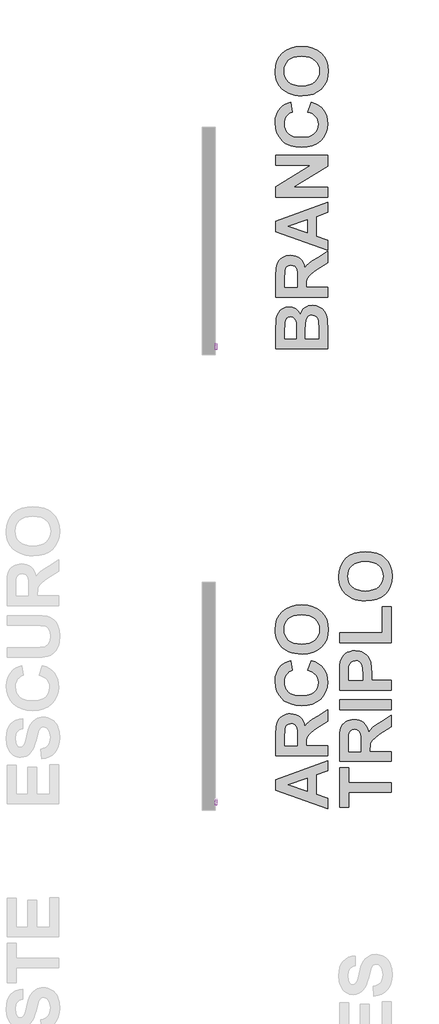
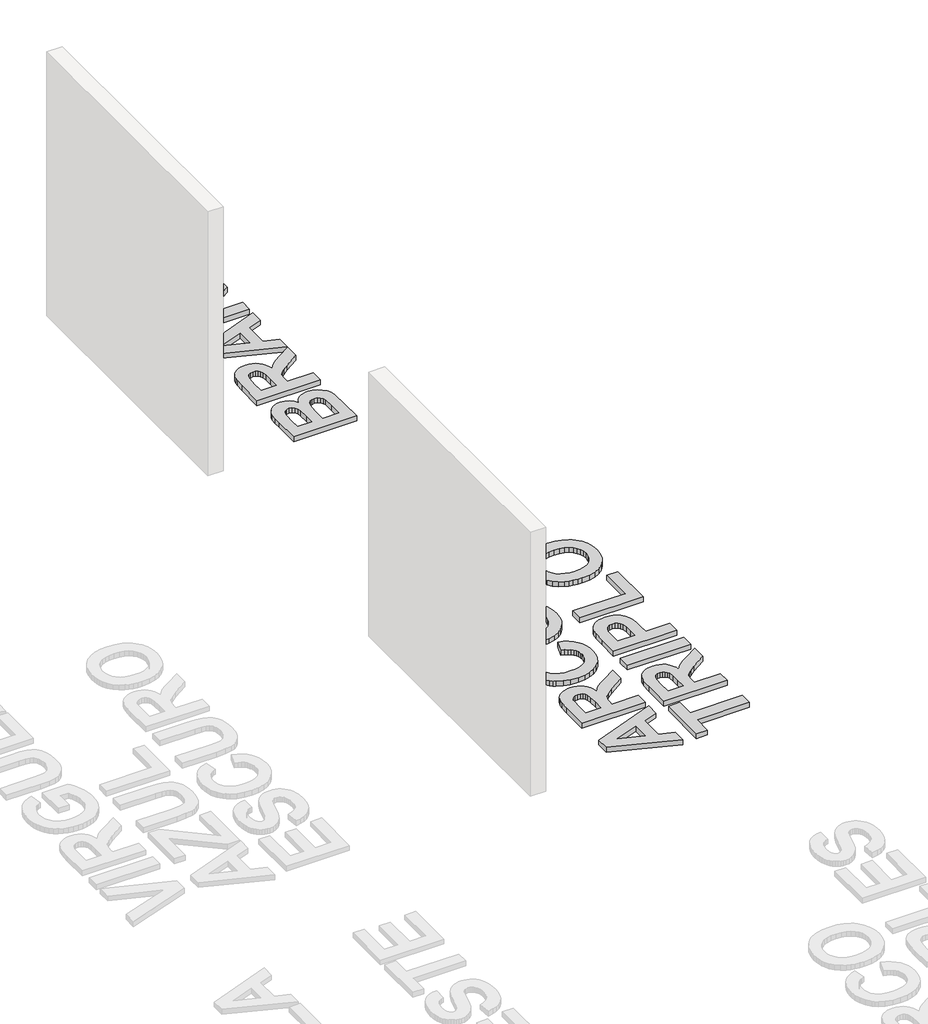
# One storey, part 11 of 12: 5 proxies.
"""IFC4 building model written with IfcOpenShell, lengths in millimetres."""

from ifc_helpers import new_model, si_unit, frame, origin, origin_with_axes, place, context, project, spatial, polyline, outline, extrude, element, save

model = new_model("IFC4")

# Units and contexts
model_context = context("Model", 3, world=origin())
ifc_project = project(units=[si_unit("LENGTHUNIT", "METRE", prefix="MILLI")], contexts=[model_context])

# Site, building, storey
site = spatial("IfcSite", under=ifc_project)
building = spatial("IfcBuilding", under=site)
storey = spatial("IfcBuildingStorey", under=building, Name="PORTOBELLO - SHOWROOM", Elevation=0.0)

# Proxies
placement = place(None, origin())
element("IfcBuildingElementProxy", 1, Name="10mm Arial", ObjectType="10mm Arial", at=placement, inside=storey, context=model_context, shape_type="SweptSolid", body=[
    extrude(outline(polyline([(7035.0884642, 2548.8308244), (7035.0884642, 2649.2871345), (7073.4217681, 2649.2871345), (7092.1960126, 2646.3318158), (7103.2815234, 2637.2451306), (7107.2914371, 2624.3937862), (7103.9191855, 2612.6583505), (7093.7288542, 2603.767869), (7106.101952, 2594.3991409), (7110.4306968, 2578.7764188), (7107.4753781, 2565.2751496), (7100.1545264, 2555.6611668), (7089.2284311, 2550.5598698), (7073.1274625, 2548.8308244), (7035.0884642, 2548.8308244)]), holes=[polyline([(7047.645503, 2608.4767585), (7070.576814, 2608.4767585), (7083.9677186, 2609.5558791), (7092.0243343, 2614.2034549), (7094.7343983, 2622.382698), (7092.2082753, 2630.5742037), (7084.9732627, 2635.4179833), (7068.8355059, 2636.7300958), (7047.645503, 2636.7300958), (7047.645503, 2608.4767585)]), polyline([(7047.645503, 2561.3878632), (7073.3972426, 2561.3878632), (7082.7169198, 2561.8783725), (7090.6018573, 2564.612962), (7095.8257816, 2570.1925056), (7097.873658, 2578.6537915), (7095.4701623, 2588.4149271), (7087.6833268, 2594.2397253), (7072.1709693, 2595.9197198), (7047.645503, 2595.9197198), (7047.645503, 2561.3878632)])]), frame((13302.9163978, 0.0, 0.0), z_axis=(1.0, 0.0, 0.0), x_axis=(0.0, 1.0, 0.0)), (0.0, 0.0, 1.0), 20.0),
    extrude(outline(polyline([(7126.1269953, 2548.8308244), (7126.1269953, 2622.6034272), (7137.1144042, 2622.6034272), (7137.1144042, 2611.6895946), (7144.9135025, 2621.7450358), (7152.7616517, 2624.173057), (7165.3677414, 2620.2980333), (7161.1738867, 2609.0408443), (7152.3447188, 2611.6160182), (7145.2445963, 2609.1389461), (7140.7196477, 2602.2718156), (7138.684034, 2587.6055867), (7138.684034, 2548.8308244), (7126.1269953, 2548.8308244)])), frame((13302.9163978, 0.0, 0.0), z_axis=(1.0, 0.0, 0.0), x_axis=(0.0, 1.0, 0.0)), (0.0, 0.0, 1.0), 20.0),
    extrude(outline(polyline([(7220.304786, 2558.2486035), (7208.127892, 2549.7382666), (7194.6756737, 2547.2611945), (7184.1818398, 2548.7511166), (7176.4409895, 2553.2208829), (7171.6677206, 2560.0083057), (7170.076631, 2568.4511975), (7172.4801267, 2578.3840113), (7178.7954342, 2585.5944984), (7187.5878139, 2589.7147768), (7198.4525955, 2591.6032377), (7220.2312096, 2595.9197198), (7220.304786, 2598.7156229), (7216.8466953, 2607.9862492), (7202.9652813, 2611.6160182), (7190.2610898, 2609.2002598), (7184.2032996, 2600.6286093), (7171.6462608, 2602.1982392), (7177.0786516, 2614.4609723), (7188.0170096, 2621.646934), (7204.5839621, 2624.173057), (7219.802014, 2621.9412396), (7228.3981899, 2616.3371705), (7232.2486881, 2607.8145709), (7232.8618248, 2596.827162), (7232.8618248, 2581.20444), (7233.4994869, 2559.3890376), (7236.0010845, 2548.8308244), (7223.4440457, 2548.8308244), (7220.304786, 2558.2486035)]), holes=[polyline([(7220.304786, 2583.362681), (7200.0467508, 2579.5121828), (7189.2432829, 2577.4765691), (7184.3504524, 2574.1656311), (7182.6336697, 2569.3341142), (7186.3738033, 2562.5405601), (7197.3489495, 2559.8182333), (7210.0531411, 2562.8226029), (7218.2446469, 2570.0944037), (7220.2312096, 2579.8064884), (7220.304786, 2583.362681)])]), frame((13302.9163978, 0.0, 0.0), z_axis=(1.0, 0.0, 0.0), x_axis=(0.0, 1.0, 0.0)), (0.0, 0.0, 1.0), 20.0),
    extrude(outline(polyline([(7250.1277531, 2548.8308244), (7250.1277531, 2622.6034272), (7262.6847919, 2622.6034272), (7262.6847919, 2612.3027313), (7272.2865119, 2621.2054756), (7285.3953737, 2624.173057), (7297.2534367, 2621.781824), (7305.3468406, 2615.5033046), (7309.1114997, 2606.2694666), (7309.7736873, 2594.1293607), (7309.7736873, 2548.8308244), (7297.2166485, 2548.8308244), (7297.2166485, 2592.4371035), (7295.769646, 2603.5471398), (7290.6560862, 2609.420989), (7282.0353848, 2611.6160182), (7268.4114883, 2606.6863995), (7264.116466, 2599.5433574), (7262.6847919, 2587.9734687), (7262.6847919, 2548.8308244), (7250.1277531, 2548.8308244)])), frame((13302.9163978, 0.0, 0.0), z_axis=(1.0, 0.0, 0.0), x_axis=(0.0, 1.0, 0.0)), (0.0, 0.0, 1.0), 20.0),
    extrude(outline(polyline([(7374.1285109, 2575.5145318), (7386.6855497, 2573.9449019), (7383.1845394, 2562.7766177), (7376.605583, 2554.3367916), (7367.5679487, 2549.0300938), (7356.6909044, 2547.2611945), (7343.3337223, 2549.7290696), (7332.8889393, 2557.1326947), (7326.1475017, 2569.1471076), (7323.9003559, 2585.4473456), (7327.7385914, 2606.3062548), (7339.4372388, 2619.7094221), (7356.5192261, 2624.173057), (7367.129556, 2622.6402154), (7375.6123017, 2618.0416904), (7381.697683, 2610.6227368), (7385.1159199, 2600.6286093), (7372.5588811, 2599.0589795), (7366.7340828, 2608.4644958), (7356.617328, 2611.6160182), (7348.5024643, 2610.0647825), (7342.0614637, 2605.4110752), (7337.8584119, 2597.4035105), (7336.4573946, 2585.7907022), (7337.8277551, 2574.021544), (7341.9388364, 2565.9863881), (7348.263341, 2561.360272), (7356.2739714, 2559.8182333), (7368.107509, 2563.6687315), (7374.1285109, 2575.5145318)])), frame((13302.9163978, 0.0, 0.0), z_axis=(1.0, 0.0, 0.0), x_axis=(0.0, 1.0, 0.0)), (0.0, 0.0, 1.0), 20.0),
    extrude(outline(polyline([(7394.5336989, 2585.7171258), (7397.2498943, 2603.5042202), (7405.3984805, 2616.0060767), (7415.4661845, 2622.1313119), (7427.5204512, 2624.173057), (7440.7120864, 2621.6867878), (7451.2488399, 2614.2279804), (7458.1558243, 2602.3852458), (7460.4581525, 2586.7471954), (7456.3869251, 2564.4044955), (7444.5288621, 2551.7616176), (7427.5204512, 2547.2611945), (7414.1694004, 2549.7382666), (7403.6449097, 2557.1694829), (7396.8115016, 2569.2605379), (7394.5336989, 2585.7171258)]), holes=[polyline([(7407.0907377, 2585.7416512), (7408.5438716, 2574.3771633), (7412.9032732, 2566.2806937), (7419.4638355, 2561.4338484), (7427.5204512, 2559.8182333), (7435.5402787, 2561.4430455), (7442.0885782, 2566.3174819), (7446.4479798, 2574.5212504), (7447.9011137, 2586.1340587), (7446.4387828, 2597.1674529), (7442.05179, 2605.1535578), (7435.4942934, 2610.0004031), (7427.5204512, 2611.6160182), (7419.4638355, 2610.0065345), (7412.9032732, 2605.1780833), (7408.5438716, 2597.1000078), (7407.0907377, 2585.7416512)])]), frame((13302.9163978, 0.0, 0.0), z_axis=(1.0, 0.0, 0.0), x_axis=(0.0, 1.0, 0.0)), (0.0, 0.0, 1.0), 20.0),
])
element("IfcBuildingElementProxy", 2, Name="10mm Arial Narrow", ObjectType="10mm Arial Narrow", at=placement, inside=storey, context=model_context, shape_type="SweptSolid", body=[
    extrude(outline(polyline([(1632.2235233, 2398.8308244), (1632.2235233, 2499.5494281), (1663.520408, 2499.5494281), (1679.8161095, 2497.6711074), (1691.2890956, 2488.1906642), (1695.5787741, 2471.1715554), (1693.7924657, 2459.0957299), (1688.4335405, 2449.4693361), (1678.6897516, 2443.1680777), (1663.7488524, 2441.0676582), (1641.970485, 2441.0676582), (1641.970485, 2398.8308244), (1632.2235233, 2398.8308244)]), holes=[polyline([(1641.970485, 2452.4391135), (1664.9418399, 2452.4391135), (1680.8060353, 2456.9699277), (1685.8318124, 2470.6385184), (1683.3569979, 2480.8042949), (1677.3793691, 2486.6042447), (1664.7133955, 2488.1779729), (1641.970485, 2488.1779729), (1641.970485, 2452.4391135)])]), frame((13302.9163978, 0.0, 0.0), z_axis=(1.0, 0.0, 0.0), x_axis=(0.0, 1.0, 0.0)), (0.0, 0.0, 1.0), 20.0),
    extrude(outline(polyline([(1703.7012421, 2435.3819306), (1705.655711, 2451.9727061), (1711.5191176, 2463.9247909), (1720.3776843, 2471.1493455), (1731.3176335, 2473.5575304), (1742.130669, 2471.1493455), (1751.0146185, 2463.9247909), (1756.9541732, 2452.1630765), (1758.9340248, 2436.143412), (1756.9890745, 2418.9815254), (1751.1542234, 2406.8390702), (1742.3051752, 2399.6145156), (1731.3176335, 2397.2063308), (1720.4570053, 2399.6208613), (1711.5825744, 2406.8644529), (1705.6715752, 2418.8228834), (1703.7012421, 2435.3819306)]), holes=[polyline([(1713.4482038, 2435.4073133), (1714.7522406, 2422.8555619), (1718.6643512, 2413.9843038), (1724.505548, 2408.7110453), (1731.5968433, 2406.9532924), (1738.3169165, 2408.7269095), (1744.0089898, 2414.0477606), (1747.8925448, 2422.9348829), (1749.1870632, 2435.4073133), (1747.8830263, 2447.9209906), (1743.9709157, 2456.7795573), (1738.129719, 2462.0528159), (1731.0384236, 2463.8105687), (1724.2707579, 2462.0432974), (1718.5882031, 2456.7414833), (1714.7332036, 2447.873398), (1713.4482038, 2435.4073133)])]), frame((13302.9163978, 0.0, 0.0), z_axis=(1.0, 0.0, 0.0), x_axis=(0.0, 1.0, 0.0)), (0.0, 0.0, 1.0), 20.0),
    extrude(outline(polyline([(1830.4117436, 2406.9532924), (1832.0362372, 2397.2063308), (1824.6752505, 2397.2063308), (1816.4004862, 2399.3257873), (1812.0854251, 2405.1257371), (1810.9178203, 2419.7715623), (1810.9178203, 2462.1860751), (1802.7953522, 2462.1860751), (1802.7953522, 2465.4350624), (1801.1708586, 2460.5615815), (1793.6068103, 2462.1860751), (1787.5276506, 2459.8635569), (1783.6567869, 2453.3782738), (1781.6769353, 2437.9709673), (1781.6769353, 2398.8308244), (1771.9299737, 2398.8308244), (1771.9299737, 2471.9330368), (1781.6769353, 2471.9330368), (1781.6769353, 2462.2368406), (1787.9210826, 2471.3238517), (1794.3175262, 2473.5575304), (1802.7953522, 2471.9330368), (1810.9178203, 2471.9330368), (1810.9178203, 2488.1779729), (1820.6647819, 2496.3004409), (1820.6647819, 2471.9330368), (1830.4117436, 2471.9330368), (1830.4117436, 2462.1860751), (1820.6647819, 2462.1860751), (1820.6647819, 2417.5378836), (1821.5277942, 2409.5423291), (1826.1474479, 2406.9532924), (1830.4117436, 2406.9532924)])), frame((13302.9163978, 0.0, 0.0), z_axis=(1.0, 0.0, 0.0), x_axis=(0.0, 1.0, 0.0)), (0.0, 0.0, 1.0), 20.0),
    extrude(outline(polyline([(1836.909718, 2435.3819306), (1838.8641869, 2451.9727061), (1844.7275935, 2463.9247909), (1853.5861602, 2471.1493455), (1864.5261094, 2473.5575304), (1875.339145, 2471.1493455), (1884.2230944, 2463.9247909), (1890.1626492, 2452.1630765), (1892.1425007, 2436.143412), (1890.1975504, 2418.9815254), (1884.3626993, 2406.8390702), (1875.5136511, 2399.6145156), (1864.5261094, 2397.2063308), (1853.6654812, 2399.6208613), (1844.7910503, 2406.8644529), (1838.8800511, 2418.8228834), (1836.909718, 2435.3819306)]), holes=[polyline([(1846.6566797, 2435.4073133), (1847.9607166, 2422.8555619), (1851.8728271, 2413.9843038), (1857.7140239, 2408.7110453), (1864.8053192, 2406.9532924), (1871.5253924, 2408.7269095), (1877.2174657, 2414.0477606), (1881.1010207, 2422.9348829), (1882.3955391, 2435.4073133), (1881.0915022, 2447.9209906), (1877.1793916, 2456.7795573), (1871.3381949, 2462.0528159), (1864.2468995, 2463.8105687), (1857.4792338, 2462.0432974), (1851.796679, 2456.7414833), (1847.9416795, 2447.873398), (1846.6566797, 2435.4073133)])]), frame((13302.9163978, 0.0, 0.0), z_axis=(1.0, 0.0, 0.0), x_axis=(0.0, 1.0, 0.0)), (0.0, 0.0, 1.0), 20.0),
    extrude(outline(polyline([(1914.8854113, 2398.8308244), (1905.1384496, 2398.8308244), (1905.1384496, 2499.5494281), (1914.8854113, 2499.5494281), (1914.8854113, 2464.140544), (1922.284472, 2471.2223208), (1931.4857053, 2473.5575304), (1944.367432, 2469.3566915), (1953.6448135, 2456.6272611), (1957.1222451, 2435.9403503), (1955.1899861, 2419.4860068), (1949.3932091, 2407.2832677), (1941.0200868, 2399.725565), (1931.3587918, 2397.2063308), (1922.0179535, 2399.8207502), (1914.8854113, 2407.5878602), (1914.8854113, 2398.8308244)]), holes=[polyline([(1914.8854113, 2435.9403503), (1916.9667937, 2418.692797), (1922.855583, 2409.9611439), (1931.3080263, 2406.9532924), (1937.2507539, 2408.7427737), (1942.4891113, 2414.1112174), (1947.3752834, 2435.5342269), (1942.6667902, 2456.9699277), (1937.4220872, 2462.1004085), (1931.1049646, 2463.8105687), (1925.1273358, 2462.0210875), (1919.8350402, 2456.6526438), (1914.8854113, 2435.9403503)])]), frame((13302.9163978, 0.0, 0.0), z_axis=(1.0, 0.0, 0.0), x_axis=(0.0, 1.0, 0.0)), (0.0, 0.0, 1.0), 20.0),
    extrude(outline(polyline([(2009.1060406, 2421.5737349), (2018.8530022, 2419.9492413), (2015.1534719, 2410.0626747), (2009.334485, 2402.9428238), (2001.6308317, 2398.640454), (1992.2773021, 2397.2063308), (1980.6837481, 2399.6208613), (1971.5396259, 2406.8644529), (1965.6000711, 2418.6705872), (1963.6202195, 2434.7727455), (1965.6095896, 2451.4396692), (1971.5776999, 2463.6201984), (1980.5917358, 2471.0731974), (1991.7188824, 2473.5575304), (2002.4018316, 2471.1588641), (2011.1493489, 2463.962865), (2016.9842, 2452.2233604), (2018.9291504, 2436.1941774), (2018.8530022, 2432.9451902), (1973.3671812, 2432.9451902), (1979.3701927, 2413.5020323), (1985.300229, 2408.5904774), (1992.4042157, 2406.9532924), (2002.5826834, 2410.608403), (2009.1060406, 2421.5737349)]), holes=[polyline([(1974.0271317, 2442.6921518), (2009.1060406, 2442.6921518), (2004.8417449, 2456.9572363), (1999.0164123, 2462.0972356), (1991.7950306, 2463.8105687), (1979.5859458, 2458.0994584), (1974.0271317, 2442.6921518)])]), frame((13302.9163978, 0.0, 0.0), z_axis=(1.0, 0.0, 0.0), x_axis=(0.0, 1.0, 0.0)), (0.0, 0.0, 1.0), 20.0),
    extrude(outline(polyline([(13322.9163978, 2041.5959128), (13322.9163978, 2031.8489511), (13302.9163978, 2031.8489511), (13302.9163978, 2041.5959128), (13322.9163978, 2041.5959128)])), frame((0.0, 0.0, 2398.8308244), z_axis=(0.0, 0.0, 1.0), x_axis=(1.0, 0.0, 0.0)), (0.0, 0.0, 1.0), 100.7186038),
    extrude(outline(polyline([(13322.9163978, 2067.5878105), (13322.9163978, 2057.8408488), (13302.9163978, 2057.8408488), (13302.9163978, 2067.5878105), (13322.9163978, 2067.5878105)])), frame((0.0, 0.0, 2398.8308244), z_axis=(0.0, 0.0, 1.0), x_axis=(1.0, 0.0, 0.0)), (0.0, 0.0, 1.0), 100.7186038),
    extrude(outline(polyline([(2078.9592658, 2435.3819306), (2080.9137346, 2451.9727061), (2086.7771413, 2463.9247909), (2095.635708, 2471.1493455), (2106.5756571, 2473.5575304), (2117.3886927, 2471.1493455), (2126.2726421, 2463.9247909), (2132.2121969, 2452.1630765), (2134.1920485, 2436.143412), (2132.2470981, 2418.9815254), (2126.412247, 2406.8390702), (2117.5631988, 2399.6145156), (2106.5756571, 2397.2063308), (2095.7150289, 2399.6208613), (2086.840598, 2406.8644529), (2080.9295988, 2418.8228834), (2078.9592658, 2435.3819306)]), holes=[polyline([(2088.7062274, 2435.4073133), (2090.0102643, 2422.8555619), (2093.9223749, 2413.9843038), (2099.7635716, 2408.7110453), (2106.854867, 2406.9532924), (2113.5749401, 2408.7269095), (2119.2670134, 2414.0477606), (2123.1505685, 2422.9348829), (2124.4450868, 2435.4073133), (2123.14105, 2447.9209906), (2119.2289394, 2456.7795573), (2113.3877426, 2462.0528159), (2106.2964473, 2463.8105687), (2099.5287815, 2462.0432974), (2093.8462267, 2456.7414833), (2089.9912272, 2447.873398), (2088.7062274, 2435.4073133)])]), frame((13302.9163978, 0.0, 0.0), z_axis=(1.0, 0.0, 0.0), x_axis=(0.0, 1.0, 0.0)), (0.0, 0.0, 1.0), 20.0),
])
element("IfcBuildingElementProxy", 3, Name="10mm Arial Narrow", ObjectType="10mm Arial Narrow", at=placement, inside=storey, context=model_context, shape_type="SweptSolid", body=[
    extrude(outline(polyline([(7032.2235233, 2398.8308244), (7032.2235233, 2499.5494281), (7063.520408, 2499.5494281), (7079.8161095, 2497.6711074), (7091.2890956, 2488.1906642), (7095.5787741, 2471.1715554), (7093.7924657, 2459.0957299), (7088.4335405, 2449.4693361), (7078.6897516, 2443.1680777), (7063.7488524, 2441.0676582), (7041.970485, 2441.0676582), (7041.970485, 2398.8308244), (7032.2235233, 2398.8308244)]), holes=[polyline([(7041.970485, 2452.4391135), (7064.9418399, 2452.4391135), (7080.8060353, 2456.9699277), (7085.8318124, 2470.6385184), (7083.3569979, 2480.8042949), (7077.3793691, 2486.6042447), (7064.7133955, 2488.1779729), (7041.970485, 2488.1779729), (7041.970485, 2452.4391135)])]), frame((13302.9163978, 0.0, 0.0), z_axis=(1.0, 0.0, 0.0), x_axis=(0.0, 1.0, 0.0)), (0.0, 0.0, 1.0), 20.0),
    extrude(outline(polyline([(7103.7012421, 2435.3819306), (7105.655711, 2451.9727061), (7111.5191176, 2463.9247909), (7120.3776843, 2471.1493455), (7131.3176335, 2473.5575304), (7142.130669, 2471.1493455), (7151.0146185, 2463.9247909), (7156.9541732, 2452.1630765), (7158.9340248, 2436.143412), (7156.9890745, 2418.9815254), (7151.1542234, 2406.8390702), (7142.3051752, 2399.6145156), (7131.3176335, 2397.2063308), (7120.4570053, 2399.6208613), (7111.5825744, 2406.8644529), (7105.6715752, 2418.8228834), (7103.7012421, 2435.3819306)]), holes=[polyline([(7113.4482038, 2435.4073133), (7114.7522406, 2422.8555619), (7118.6643512, 2413.9843038), (7124.505548, 2408.7110453), (7131.5968433, 2406.9532924), (7138.3169165, 2408.7269095), (7144.0089898, 2414.0477606), (7147.8925448, 2422.9348829), (7149.1870632, 2435.4073133), (7147.8830263, 2447.9209906), (7143.9709157, 2456.7795573), (7138.129719, 2462.0528159), (7131.0384236, 2463.8105687), (7124.2707579, 2462.0432974), (7118.5882031, 2456.7414833), (7114.7332036, 2447.873398), (7113.4482038, 2435.4073133)])]), frame((13302.9163978, 0.0, 0.0), z_axis=(1.0, 0.0, 0.0), x_axis=(0.0, 1.0, 0.0)), (0.0, 0.0, 1.0), 20.0),
    extrude(outline(polyline([(7230.4117436, 2406.9532924), (7232.0362372, 2397.2063308), (7224.6752505, 2397.2063308), (7216.4004862, 2399.3257873), (7212.0854251, 2405.1257371), (7210.9178203, 2419.7715623), (7210.9178203, 2462.1860751), (7202.7953522, 2462.1860751), (7202.7953522, 2465.4350624), (7201.1708586, 2460.5615815), (7193.6068103, 2462.1860751), (7187.5276506, 2459.8635569), (7183.6567869, 2453.3782738), (7181.6769353, 2437.9709673), (7181.6769353, 2398.8308244), (7171.9299737, 2398.8308244), (7171.9299737, 2471.9330368), (7181.6769353, 2471.9330368), (7181.6769353, 2462.2368406), (7187.9210826, 2471.3238517), (7194.3175262, 2473.5575304), (7202.7953522, 2471.9330368), (7210.9178203, 2471.9330368), (7210.9178203, 2488.1779729), (7220.6647819, 2496.3004409), (7220.6647819, 2471.9330368), (7230.4117436, 2471.9330368), (7230.4117436, 2462.1860751), (7220.6647819, 2462.1860751), (7220.6647819, 2417.5378836), (7221.5277942, 2409.5423291), (7226.1474479, 2406.9532924), (7230.4117436, 2406.9532924)])), frame((13302.9163978, 0.0, 0.0), z_axis=(1.0, 0.0, 0.0), x_axis=(0.0, 1.0, 0.0)), (0.0, 0.0, 1.0), 20.0),
    extrude(outline(polyline([(7236.909718, 2435.3819306), (7238.8641869, 2451.9727061), (7244.7275935, 2463.9247909), (7253.5861602, 2471.1493455), (7264.5261094, 2473.5575304), (7275.339145, 2471.1493455), (7284.2230944, 2463.9247909), (7290.1626492, 2452.1630765), (7292.1425007, 2436.143412), (7290.1975504, 2418.9815254), (7284.3626993, 2406.8390702), (7275.5136511, 2399.6145156), (7264.5261094, 2397.2063308), (7253.6654812, 2399.6208613), (7244.7910503, 2406.8644529), (7238.8800511, 2418.8228834), (7236.909718, 2435.3819306)]), holes=[polyline([(7246.6566797, 2435.4073133), (7247.9607166, 2422.8555619), (7251.8728271, 2413.9843038), (7257.7140239, 2408.7110453), (7264.8053192, 2406.9532924), (7271.5253924, 2408.7269095), (7277.2174657, 2414.0477606), (7281.1010207, 2422.9348829), (7282.3955391, 2435.4073133), (7281.0915022, 2447.9209906), (7277.1793916, 2456.7795573), (7271.3381949, 2462.0528159), (7264.2468995, 2463.8105687), (7257.4792338, 2462.0432974), (7251.796679, 2456.7414833), (7247.9416795, 2447.873398), (7246.6566797, 2435.4073133)])]), frame((13302.9163978, 0.0, 0.0), z_axis=(1.0, 0.0, 0.0), x_axis=(0.0, 1.0, 0.0)), (0.0, 0.0, 1.0), 20.0),
    extrude(outline(polyline([(7314.8854113, 2398.8308244), (7305.1384496, 2398.8308244), (7305.1384496, 2499.5494281), (7314.8854113, 2499.5494281), (7314.8854113, 2464.140544), (7322.284472, 2471.2223208), (7331.4857053, 2473.5575304), (7344.367432, 2469.3566915), (7353.6448135, 2456.6272611), (7357.1222451, 2435.9403503), (7355.1899861, 2419.4860068), (7349.3932091, 2407.2832677), (7341.0200868, 2399.725565), (7331.3587918, 2397.2063308), (7322.0179535, 2399.8207502), (7314.8854113, 2407.5878602), (7314.8854113, 2398.8308244)]), holes=[polyline([(7314.8854113, 2435.9403503), (7316.9667937, 2418.692797), (7322.855583, 2409.9611439), (7331.3080263, 2406.9532924), (7337.2507539, 2408.7427737), (7342.4891113, 2414.1112174), (7347.3752834, 2435.5342269), (7342.6667902, 2456.9699277), (7337.4220872, 2462.1004085), (7331.1049646, 2463.8105687), (7325.1273358, 2462.0210875), (7319.8350402, 2456.6526438), (7314.8854113, 2435.9403503)])]), frame((13302.9163978, 0.0, 0.0), z_axis=(1.0, 0.0, 0.0), x_axis=(0.0, 1.0, 0.0)), (0.0, 0.0, 1.0), 20.0),
    extrude(outline(polyline([(7409.1060406, 2421.5737349), (7418.8530022, 2419.9492413), (7415.1534719, 2410.0626747), (7409.334485, 2402.9428238), (7401.6308317, 2398.640454), (7392.2773021, 2397.2063308), (7380.6837481, 2399.6208613), (7371.5396259, 2406.8644529), (7365.6000711, 2418.6705872), (7363.6202195, 2434.7727455), (7365.6095896, 2451.4396692), (7371.5776999, 2463.6201984), (7380.5917358, 2471.0731974), (7391.7188824, 2473.5575304), (7402.4018316, 2471.1588641), (7411.1493489, 2463.962865), (7416.9842, 2452.2233604), (7418.9291504, 2436.1941774), (7418.8530022, 2432.9451902), (7373.3671812, 2432.9451902), (7379.3701927, 2413.5020323), (7385.300229, 2408.5904774), (7392.4042157, 2406.9532924), (7402.5826834, 2410.608403), (7409.1060406, 2421.5737349)]), holes=[polyline([(7374.0271317, 2442.6921518), (7409.1060406, 2442.6921518), (7404.8417449, 2456.9572363), (7399.0164123, 2462.0972356), (7391.7950306, 2463.8105687), (7379.5859458, 2458.0994584), (7374.0271317, 2442.6921518)])]), frame((13302.9163978, 0.0, 0.0), z_axis=(1.0, 0.0, 0.0), x_axis=(0.0, 1.0, 0.0)), (0.0, 0.0, 1.0), 20.0),
    extrude(outline(polyline([(13322.9163978, 7441.5959128), (13322.9163978, 7431.8489511), (13302.9163978, 7431.8489511), (13302.9163978, 7441.5959128), (13322.9163978, 7441.5959128)])), frame((0.0, 0.0, 2398.8308244), z_axis=(0.0, 0.0, 1.0), x_axis=(1.0, 0.0, 0.0)), (0.0, 0.0, 1.0), 100.7186038),
    extrude(outline(polyline([(13322.9163978, 7467.5878105), (13322.9163978, 7457.8408488), (13302.9163978, 7457.8408488), (13302.9163978, 7467.5878105), (13322.9163978, 7467.5878105)])), frame((0.0, 0.0, 2398.8308244), z_axis=(0.0, 0.0, 1.0), x_axis=(1.0, 0.0, 0.0)), (0.0, 0.0, 1.0), 100.7186038),
    extrude(outline(polyline([(7478.9592658, 2435.3819306), (7480.9137346, 2451.9727061), (7486.7771413, 2463.9247909), (7495.635708, 2471.1493455), (7506.5756571, 2473.5575304), (7517.3886927, 2471.1493455), (7526.2726421, 2463.9247909), (7532.2121969, 2452.1630765), (7534.1920485, 2436.143412), (7532.2470981, 2418.9815254), (7526.412247, 2406.8390702), (7517.5631988, 2399.6145156), (7506.5756571, 2397.2063308), (7495.7150289, 2399.6208613), (7486.840598, 2406.8644529), (7480.9295988, 2418.8228834), (7478.9592658, 2435.3819306)]), holes=[polyline([(7488.7062274, 2435.4073133), (7490.0102643, 2422.8555619), (7493.9223749, 2413.9843038), (7499.7635716, 2408.7110453), (7506.854867, 2406.9532924), (7513.5749401, 2408.7269095), (7519.2670134, 2414.0477606), (7523.1505685, 2422.9348829), (7524.4450868, 2435.4073133), (7523.14105, 2447.9209906), (7519.2289394, 2456.7795573), (7513.3877426, 2462.0528159), (7506.2964473, 2463.8105687), (7499.5287815, 2462.0432974), (7493.8462267, 2456.7414833), (7489.9912272, 2447.873398), (7488.7062274, 2435.4073133)])]), frame((13302.9163978, 0.0, 0.0), z_axis=(1.0, 0.0, 0.0), x_axis=(0.0, 1.0, 0.0)), (0.0, 0.0, 1.0), 20.0),
])
element("IfcBuildingElementProxy", 4, Name="600mm Arial", ObjectType="600mm Arial", at=placement, inside=storey, context=model_context, shape_type="SweptSolid", body=[
    extrude(outline(polyline([(14636.2154342, 2161.6357463), (14636.2154342, 2039.1135237), (14500.1808475, 1991.13704), (14500.1808475, 1759.9086075), (14636.2154342, 1712.5394211), (14636.2154342, 1588.347131), (14024.0597942, 1811.8325234), (14024.0597942, 1936.0248135), (14636.2154342, 2161.6357463)]), holes=[polyline([(14393.2965295, 1953.7882584), (14169.8111371, 1874.9914387), (14393.2965295, 1797.2573891), (14393.2965295, 1953.7882584)])]), origin_with_axes(), (0.0, 0.0, 1.0), 50.0),
    extrude(outline(polyline([(14636.2154342, 2219.9362834), (14024.0597942, 2219.9362834), (14024.0597942, 2477.4303224), (14028.1970068, 2561.3132567), (14033.3685226, 2593.2912532), (14040.6086446, 2618.6269358), (14050.4962032, 2639.5407353), (14063.6100284, 2658.2530822), (14079.9501204, 2674.7639765), (14099.516479, 2689.0734182), (14121.4645816, 2700.6310442), (14144.9499054, 2708.8864914), (14169.9724504, 2713.8397597), (14196.5322166, 2715.4908491), (14229.6394064, 2713.1043606), (14259.7290879, 2705.9448953), (14286.8012612, 2694.012453), (14310.8559262, 2677.3070338), (14331.3142527, 2655.8476157), (14347.5974105, 2629.6531767), (14359.7053997, 2598.723717), (14367.6382201, 2563.0592364), (14392.0060228, 2596.8781026), (14418.6511901, 2624.2444355), (14457.2525223, 2652.5596703), (14517.4888195, 2689.2252425), (14636.2154342, 2764.07463), (14636.2154342, 2627.8882191), (14496.3852397, 2539.2228188), (14442.6963661, 2496.3893838), (14413.4132513, 2469.6113702), (14399.0089193, 2450.291726), (14389.9563945, 2429.8333995), (14385.1739286, 2402.6758251), (14383.5797733, 2363.2584372), (14383.5797733, 2336.5373577), (14636.2154342, 2336.5373577), (14636.2154342, 2219.9362834)]), holes=[polyline([(14276.6954552, 2336.5373577), (14276.6954552, 2432.6421494), (14274.9304975, 2508.497373), (14269.6356245, 2549.3191358), (14260.0327366, 2570.081111), (14245.343734, 2585.7569715), (14225.9671558, 2595.606574), (14202.3015406, 2598.8897748), (14176.0928681, 2594.5627818), (14155.4637393, 2581.5818028), (14140.907583, 2560.7059595), (14132.9178284, 2532.6943733), (14130.9441123, 2437.9560004), (14130.9441123, 2336.5373577), (14276.6954552, 2336.5373577)])]), origin_with_axes(), (0.0, 0.0, 1.0), 50.0),
    extrude(outline(polyline([(14403.0132856, 3230.4789272), (14441.8803104, 3347.0800014), (14487.9827127, 3330.977135), (14527.7559388, 3310.300561), (14561.1999888, 3285.0502796), (14588.3148627, 3255.2262906), (14609.2713627, 3220.9519514), (14624.2402913, 3182.3506192), (14633.2216485, 3139.422294), (14636.2154342, 3092.1669758), (14631.1008526, 3033.7810375), (14615.7571077, 2980.8417965), (14590.1841996, 2933.3492528), (14554.3821282, 2891.3034064), (14509.7078233, 2856.8962209), (14457.5182149, 2832.3196598), (14397.8133028, 2817.5737232), (14330.5930872, 2812.658411), (14259.7101099, 2817.6164238), (14197.215426, 2832.4904622), (14143.1090356, 2857.2805262), (14119.2014504, 2873.3940678), (14097.3909386, 2891.9866158), (14061.0574821, 2934.7773502), (14035.1050132, 2983.8213486), (14019.5335318, 3039.118611), (14014.343038, 3100.6691374), (14018.6225859, 3154.4908573), (14031.4612296, 3202.9987261), (14052.8589691, 3246.1927438), (14082.8158043, 3284.0729105), (14105.2193799, 3303.7816045), (14132.0448386, 3320.8523509), (14163.2921805, 3335.2851499), (14198.9614057, 3347.0800014), (14218.394918, 3230.4789272), (14197.0398792, 3223.1296814), (14178.0665842, 3212.6205921), (14161.4750333, 3198.9516592), (14147.2652262, 3182.1228827), (14135.8736581, 3162.7225819), (14127.7368237, 3141.3390759), (14122.854723, 3117.9723649), (14121.2273561, 3092.6224487), (14124.1831858, 3057.9732932), (14133.0506747, 3026.7496738), (14147.8298229, 2998.9515906), (14168.5206304, 2974.5790434), (14195.8252846, 2954.7517367), (14230.4459731, 2940.5893748), (14272.3826957, 2932.0919577), (14321.6354526, 2929.2594853), (14373.7681269, 2932.0065565), (14417.8161564, 2940.2477701), (14453.7795411, 2953.9831261), (14481.6582811, 2973.2126246), (14502.5151464, 2996.8450282), (14517.4129074, 3023.7890997), (14526.3515639, 3054.0448391), (14529.3311161, 3087.6122463), (14527.4285677, 3112.6015797), (14521.7209223, 3135.7974884), (14512.20818, 3157.1999724), (14498.8903409, 3176.8090316), (14481.4827342, 3194.1976603), (14459.7006894, 3208.9388524), (14433.5442066, 3221.032608), (14403.0132856, 3230.4789272)])), origin_with_axes(), (0.0, 0.0, 1.0), 50.0),
    extrude(outline(polyline([(14333.9332221, 3424.814051), (14289.126071, 3426.5315635), (14248.0765717, 3431.6841012), (14210.7847242, 3440.2716641), (14177.2505285, 3452.2942521), (14133.0127186, 3476.5292084), (14093.5194186, 3508.2415123), (14061.1998174, 3545.3815355), (14038.4831042, 3585.8996497), (14027.9218253, 3615.0688963), (14020.3780546, 3646.4016394), (14015.8517922, 3679.897879), (14014.343038, 3715.5576151), (14019.5762324, 3778.6595962), (14035.2758155, 3835.1192635), (14061.4417874, 3884.936617), (14098.074148, 3928.1116567), (14120.0281813, 3946.7931643), (14144.024726, 3962.9838042), (14198.14535, 3987.892481), (14260.4360199, 4002.837687), (14330.8967358, 4007.8194224), (14400.8782562, 4002.8756431), (14462.7941099, 3988.0443053), (14516.6442968, 3963.3254089), (14540.5447652, 3947.2581263), (14562.4288169, 3928.718954), (14598.9615428, 3885.8285849), (14625.056347, 3836.2579459), (14640.7132296, 3780.007037), (14645.9321904, 3717.0758582), (14640.7369521, 3653.4804481), (14625.1512372, 3596.7550882), (14599.1750457, 3546.8997786), (14562.8083777, 3503.9145193), (14517.3322507, 3469.3080644), (14464.0276824, 3444.5891681), (14402.8946729, 3429.7578302), (14333.9332221, 3424.814051)]), holes=[polyline([(14329.6821413, 3541.4151252), (14378.1046089, 3544.5132902), (14420.2833015, 3553.807785), (14456.2182192, 3569.2986097), (14485.9093619, 3590.9857642), (14509.1574602, 3617.4458957), (14525.7632447, 3647.2556512), (14535.7267154, 3680.4150306), (14539.0478723, 3716.9240339), (14535.750438, 3753.3950812), (14525.8581349, 3786.4405924), (14509.3709631, 3816.0605674), (14486.2889227, 3842.2550064), (14456.6120135, 3863.6764684), (14420.3402356, 3878.9775127), (14377.4735891, 3888.1581392), (14328.0120738, 3891.2183481), (14279.2385125, 3888.2387959), (14237.0693088, 3879.3001393), (14201.5044629, 3864.4023784), (14172.5439748, 3843.545513), (14150.0929541, 3817.7543574), (14134.0565108, 3788.0537257), (14124.4346448, 3754.4436179), (14121.2273561, 3716.9240339), (14124.4726009, 3679.3664939), (14134.2083351, 3645.6425178), (14150.4345588, 3615.7521057), (14173.151272, 3589.6952576), (14202.4059198, 3568.5726997), (14238.2459473, 3553.4851583), (14280.6713544, 3544.4326335), (14329.6821413, 3541.4151252)])]), origin_with_axes(), (0.0, 0.0, 1.0), 50.0),
    extrude(outline(polyline([(15391.6835332, 1782.6822548), (14886.4122114, 1782.6822548), (14886.4122114, 1607.7806434), (14779.5278933, 1607.7806434), (14779.5278933, 2074.1849405), (14886.4122114, 2074.1849405), (14886.4122114, 1899.2833291), (15391.6835332, 1899.2833291), (15391.6835332, 1782.6822548)])), origin_with_axes(), (0.0, 0.0, 1.0), 50.0),
    extrude(outline(polyline([(15391.6835332, 2151.9189901), (14779.5278933, 2151.9189901), (14779.5278933, 2409.4130291), (14783.6651059, 2493.2959634), (14788.8366216, 2525.2739598), (14796.0767437, 2550.6096425), (14805.9643022, 2571.5234419), (14819.0781275, 2590.2357888), (14835.4182194, 2606.7466831), (14854.9845781, 2621.0561249), (14876.9326807, 2632.6137509), (14900.4180045, 2640.869198), (14925.4405495, 2645.8224663), (14952.0003156, 2647.4735558), (14985.1075054, 2645.0870673), (15015.197187, 2637.9276019), (15042.2693602, 2625.9951596), (15066.3240252, 2609.2897404), (15086.7823517, 2587.8303223), (15103.0655095, 2561.6358834), (15115.1734987, 2530.7064236), (15123.1063192, 2495.041943), (15147.4741218, 2528.8608093), (15174.1192892, 2556.2271422), (15212.7206214, 2584.542377), (15272.9569186, 2621.2079492), (15391.6835332, 2696.0573367), (15391.6835332, 2559.8709257), (15251.8533387, 2471.2055255), (15198.1644651, 2428.3720905), (15168.8813503, 2401.5940769), (15154.4770184, 2382.2744327), (15145.4244936, 2361.8161062), (15140.6420276, 2334.6585318), (15139.0478723, 2295.2411439), (15139.0478723, 2268.5200643), (15391.6835332, 2268.5200643), (15391.6835332, 2151.9189901)]), holes=[polyline([(15032.1635542, 2268.5200643), (15032.1635542, 2364.624856), (15030.3985965, 2440.4800797), (15025.1037235, 2481.3018425), (15015.5008356, 2502.0638176), (15000.8118331, 2517.7396782), (14981.4352548, 2527.5892807), (14957.7696396, 2530.8724815), (14931.5609672, 2526.5454885), (14910.9318383, 2513.5645095), (14896.3756821, 2492.6886661), (14888.3859275, 2464.6770799), (14886.4122114, 2369.9387071), (14886.4122114, 2268.5200643), (15032.1635542, 2268.5200643)])]), origin_with_axes(), (0.0, 0.0, 1.0), 50.0),
    extrude(outline(polyline([(15391.6835332, 2764.07463), (14779.5278933, 2764.07463), (14779.5278933, 2880.6757043), (15391.6835332, 2880.6757043), (15391.6835332, 2764.07463)])), origin_with_axes(), (0.0, 0.0, 1.0), 50.0),
    extrude(outline(polyline([(15391.6835332, 2997.2767786), (14779.5278933, 2997.2767786), (14779.5278933, 3194.4965644), (14781.805258, 3287.1473529), (14788.6373522, 3340.7033802), (14797.4858631, 3365.8255599), (14810.3672074, 3388.8127102), (14827.281385, 3409.664831), (14848.228396, 3428.3819224), (14872.8571467, 3443.825302), (14900.8165433, 3454.8562874), (14932.1065858, 3461.4748786), (14966.7272742, 3463.6810757), (15018.2906074, 3458.500071), (15040.7273945, 3452.023815), (15060.934262, 3442.9570567), (15095.0188208, 3419.4242878), (15120.9048666, 3390.2740192), (15139.0288943, 3358.0682863), (15149.8273987, 3325.3691243), (15156.3178882, 3270.5225904), (15158.4813847, 3195.5593346), (15158.4813847, 3113.8778529), (15391.6835332, 3113.8778529), (15391.6835332, 2997.2767786)]), holes=[polyline([(14886.4122114, 3113.8778529), (15051.5970666, 3113.8778529), (15051.5970666, 3186.2980514), (15049.3197019, 3251.5255729), (15042.4876077, 3290.8290926), (15030.7781573, 3314.3239054), (15013.8687242, 3332.1253064), (14992.7841224, 3343.3413277), (14968.549166, 3347.0800014), (14939.5886779, 3341.8230845), (14916.1697772, 3326.0523338), (14899.3931903, 3302.2728503), (14890.3596436, 3272.9897355), (14886.4122114, 3177.7958897), (14886.4122114, 3113.8778529)])]), origin_with_axes(), (0.0, 0.0, 1.0), 50.0),
    extrude(outline(polyline([(15391.6835332, 3560.8486376), (14779.5278933, 3560.8486376), (14779.5278933, 3677.4497119), (15284.7992152, 3677.4497119), (15284.7992152, 3988.38591), (15391.6835332, 3988.38591), (15391.6835332, 3560.8486376)])), origin_with_axes(), (0.0, 0.0, 1.0), 50.0),
    extrude(outline(polyline([(15089.4013211, 4056.4032033), (15044.59417, 4058.1207159), (15003.5446708, 4063.2732536), (14966.2528233, 4071.8608164), (14932.7186276, 4083.8834044), (14888.4808177, 4108.1183608), (14848.9875176, 4139.8306647), (14816.6679164, 4176.9706878), (14793.9512032, 4217.488802), (14783.3899243, 4246.6580486), (14775.8461536, 4277.9907917), (14771.3198912, 4311.4870313), (14769.8111371, 4347.1467674), (14775.0443315, 4410.2487486), (14790.7439146, 4466.7084159), (14816.9098864, 4516.5257694), (14853.5422471, 4559.7008091), (14875.4962803, 4578.3823167), (14899.492825, 4594.5729566), (14953.613449, 4619.4816333), (15015.9041189, 4634.4268394), (15086.3648348, 4639.4085747), (15156.3463553, 4634.4647955), (15218.2622089, 4619.6334576), (15272.1123958, 4594.9145613), (15296.0128642, 4578.8472786), (15317.8969159, 4560.3081064), (15354.4296418, 4517.4177372), (15380.5244461, 4467.8470982), (15396.1813286, 4411.5961894), (15401.4002894, 4348.6650106), (15396.2050511, 4285.0696005), (15380.6193363, 4228.3442406), (15354.6431448, 4178.488931), (15318.2764767, 4135.5036717), (15272.8003497, 4100.8972168), (15219.4957815, 4076.1783204), (15158.3627719, 4061.3469826), (15089.4013211, 4056.4032033)]), holes=[polyline([(15085.1502403, 4173.0042776), (15133.5727079, 4176.1024425), (15175.7514006, 4185.3969374), (15211.6863182, 4200.887762), (15241.3774609, 4222.5749166), (15264.6255592, 4249.0350481), (15281.2313437, 4278.8448035), (15291.1948144, 4312.0041829), (15294.5159713, 4348.5131863), (15291.218537, 4384.9842336), (15281.3262339, 4418.0297447), (15264.8390622, 4447.6497198), (15241.7570217, 4473.8441587), (15212.0801126, 4495.2656207), (15175.8083347, 4510.566665), (15132.9416881, 4519.7472916), (15083.4801728, 4522.8075004), (15034.7066115, 4519.8279483), (14992.5374079, 4510.8892917), (14956.972562, 4495.9915307), (14928.0120738, 4475.1346654), (14905.5610532, 4449.3435098), (14889.5246098, 4419.6428781), (14879.9027438, 4386.0327702), (14876.6954552, 4348.5131863), (14879.9406999, 4310.9556462), (14889.6764341, 4277.2316702), (14905.9026579, 4247.3412581), (14928.6193711, 4221.2844099), (14957.8740189, 4200.161852), (14993.7140463, 4185.0743107), (15036.1394535, 4176.0217859), (15085.1502403, 4173.0042776)])]), origin_with_axes(), (0.0, 0.0, 1.0), 50.0),
])
element("IfcBuildingElementProxy", 5, Name="600mm Arial", ObjectType="600mm Arial", at=placement, inside=storey, context=model_context, shape_type="SweptSolid", body=[
    extrude(outline(polyline([(14024.0597942, 7046.6476682), (14024.0597942, 7297.9169103), (14025.5780374, 7362.9926075), (14030.1327669, 7409.1282214), (14039.5268964, 7443.8580335), (14055.5633397, 7474.7163257), (14078.1092505, 7501.2286467), (14107.0317826, 7522.9205458), (14141.0973634, 7537.3818119), (14179.0724203, 7542.2022339), (14220.4445463, 7536.4518879), (14258.324713, 7519.2008501), (14289.9421267, 7492.0812317), (14312.5259936, 7456.7251443), (14322.0719475, 7480.5425838), (14334.4646072, 7501.4374052), (14349.7039729, 7519.4096085), (14367.7900445, 7534.4591938), (14388.1629698, 7546.3489355), (14410.2628967, 7554.8416081), (14434.0898252, 7559.9372117), (14459.6437553, 7561.6357463), (14500.6552985, 7556.7583901), (14540.4902033, 7542.1263217), (14575.7893567, 7519.0490258), (14603.1936456, 7488.835987), (14622.152707, 7451.1266226), (14632.1161777, 7405.56035), (14636.2154342, 7255.8615749), (14636.2154342, 7046.6476682), (14024.0597942, 7046.6476682)]), holes=[polyline([(14130.9441123, 7163.2487425), (14266.978699, 7163.2487425), (14266.978699, 7252.2177913), (14265.0049829, 7350.9035964), (14257.9071961, 7381.9706469), (14243.901403, 7405.6362621), (14223.670813, 7420.6099352), (14197.8986354, 7425.6011596), (14173.2461622, 7421.2931446), (14153.6418475, 7408.3690998), (14139.920725, 7386.9808493), (14132.9178284, 7357.2802176), (14130.9441123, 7241.2864406), (14130.9441123, 7163.2487425)]), polyline([(14373.8630171, 7163.2487425), (14529.3311161, 7163.2487425), (14529.3311161, 7286.5300866), (14525.6873325, 7377.9283245), (14517.5457536, 7404.9150966), (14502.5341244, 7426.3602812), (14480.9560936, 7440.3660743), (14453.1153098, 7445.034672), (14428.9752436, 7441.4288445), (14408.7826096, 7430.611362), (14393.0308369, 7412.9997414), (14382.2133544, 7389.0114996), (14375.9506014, 7345.893394), (14373.8630171, 7270.8921821), (14373.8630171, 7163.2487425)])]), origin_with_axes(), (0.0, 0.0, 1.0), 50.0),
    extrude(outline(polyline([(14636.2154342, 7658.8033082), (14024.0597942, 7658.8033082), (14024.0597942, 7916.2973472), (14028.1970068, 8000.1802815), (14033.3685226, 8032.1582779), (14040.6086446, 8057.4939606), (14050.4962032, 8078.40776), (14063.6100284, 8097.1201069), (14079.9501204, 8113.6310012), (14099.516479, 8127.940443), (14121.4645816, 8139.498069), (14144.9499054, 8147.7535161), (14169.9724504, 8152.7067844), (14196.5322166, 8154.3578739), (14229.6394064, 8151.9713854), (14259.7290879, 8144.81192), (14286.8012612, 8132.8794777), (14310.8559262, 8116.1740585), (14331.3142527, 8094.7146404), (14347.5974105, 8068.5202015), (14359.7053997, 8037.5907417), (14367.6382201, 8001.9262611), (14392.0060228, 8035.7451274), (14418.6511901, 8063.1114603), (14457.2525223, 8091.4266951), (14517.4888195, 8128.0922673), (14636.2154342, 8202.9416548), (14636.2154342, 8066.7552438), (14496.3852397, 7978.0898436), (14442.6963661, 7935.2564086), (14413.4132513, 7908.4783949), (14399.0089193, 7889.1587508), (14389.9563945, 7868.7004243), (14385.1739286, 7841.5428499), (14383.5797733, 7802.125462), (14383.5797733, 7775.4043824), (14636.2154342, 7775.4043824), (14636.2154342, 7658.8033082)]), holes=[polyline([(14276.6954552, 7775.4043824), (14276.6954552, 7871.5091741), (14274.9304975, 7947.3643977), (14269.6356245, 7988.1861606), (14260.0327366, 8008.9481357), (14245.343734, 8024.6239963), (14225.9671558, 8034.4735987), (14202.3015406, 8037.7567996), (14176.0928681, 8033.4298066), (14155.4637393, 8020.4488276), (14140.907583, 7999.5729842), (14132.9178284, 7971.561398), (14130.9441123, 7876.8230252), (14130.9441123, 7775.4043824), (14276.6954552, 7775.4043824)])]), origin_with_axes(), (0.0, 0.0, 1.0), 50.0),
    extrude(outline(polyline([(14636.2154342, 8785.9470262), (14636.2154342, 8663.4248036), (14500.1808475, 8615.4483199), (14500.1808475, 8384.2198875), (14636.2154342, 8336.850701), (14636.2154342, 8212.658411), (14024.0597942, 8436.1438034), (14024.0597942, 8560.3360934), (14636.2154342, 8785.9470262)]), holes=[polyline([(14393.2965295, 8578.0995383), (14169.8111371, 8499.3027186), (14393.2965295, 8421.5686691), (14393.2965295, 8578.0995383)])]), origin_with_axes(), (0.0, 0.0, 1.0), 50.0),
    extrude(outline(polyline([(14636.2154342, 8844.2475633), (14024.0597942, 8844.2475633), (14024.0597942, 8966.4661373), (14436.1109864, 9223.2010548), (14024.0597942, 9223.2010548), (14024.0597942, 9339.802129), (14636.2154342, 9339.802129), (14636.2154342, 9213.7879472), (14230.2372146, 8960.8486376), (14636.2154342, 8960.8486376), (14636.2154342, 8844.2475633)])), origin_with_axes(), (0.0, 0.0, 1.0), 50.0),
    extrude(outline(polyline([(14403.0132856, 9854.7902071), (14441.8803104, 9971.3912814), (14487.9827127, 9955.2884149), (14527.7559388, 9934.611841), (14561.1999888, 9909.3615595), (14588.3148627, 9879.5375705), (14609.2713627, 9845.2632313), (14624.2402913, 9806.6618991), (14633.2216485, 9763.7335739), (14636.2154342, 9716.4782557), (14631.1008526, 9658.0923174), (14615.7571077, 9605.1530764), (14590.1841996, 9557.6605327), (14554.3821282, 9515.6146864), (14509.7078233, 9481.2075009), (14457.5182149, 9456.6309398), (14397.8133028, 9441.8850032), (14330.5930872, 9436.9696909), (14259.7101099, 9441.9277037), (14197.215426, 9456.8017421), (14143.1090356, 9481.5918062), (14119.2014504, 9497.7053478), (14097.3909386, 9516.2978958), (14061.0574821, 9559.0886302), (14035.1050132, 9608.1326286), (14019.5335318, 9663.429891), (14014.343038, 9724.9804174), (14018.6225859, 9778.8021372), (14031.4612296, 9827.310006), (14052.8589691, 9870.5040238), (14082.8158043, 9908.3841905), (14105.2193799, 9928.0928844), (14132.0448386, 9945.1636309), (14163.2921805, 9959.5964299), (14198.9614057, 9971.3912814), (14218.394918, 9854.7902071), (14197.0398792, 9847.4409613), (14178.0665842, 9836.931872), (14161.4750333, 9823.2629391), (14147.2652262, 9806.4341626), (14135.8736581, 9787.0338618), (14127.7368237, 9765.6503559), (14122.854723, 9742.2836448), (14121.2273561, 9716.9337287), (14124.1831858, 9682.2845732), (14133.0506747, 9651.0609538), (14147.8298229, 9623.2628705), (14168.5206304, 9598.8903234), (14195.8252846, 9579.0630167), (14230.4459731, 9564.9006548), (14272.3826957, 9556.4032376), (14321.6354526, 9553.5707652), (14373.7681269, 9556.3178364), (14417.8161564, 9564.5590501), (14453.7795411, 9578.2944061), (14481.6582811, 9597.5239046), (14502.5151464, 9621.1563082), (14517.4129074, 9648.1003796), (14526.3515639, 9678.356119), (14529.3311161, 9711.9235263), (14527.4285677, 9736.9128597), (14521.7209223, 9760.1087684), (14512.20818, 9781.5112524), (14498.8903409, 9801.1203116), (14481.4827342, 9818.5089402), (14459.7006894, 9833.2501324), (14433.5442066, 9845.343888), (14403.0132856, 9854.7902071)])), origin_with_axes(), (0.0, 0.0, 1.0), 50.0),
    extrude(outline(polyline([(14333.9332221, 10049.1253309), (14289.126071, 10050.8428435), (14248.0765717, 10055.9953812), (14210.7847242, 10064.582944), (14177.2505285, 10076.605532), (14133.0127186, 10100.8404884), (14093.5194186, 10132.5527923), (14061.1998174, 10169.6928154), (14038.4831042, 10210.2109296), (14027.9218253, 10239.3801762), (14020.3780546, 10270.7129193), (14015.8517922, 10304.2091589), (14014.343038, 10339.868895), (14019.5762324, 10402.9708762), (14035.2758155, 10459.4305435), (14061.4417874, 10509.247897), (14098.074148, 10552.4229367), (14120.0281813, 10571.1044443), (14144.024726, 10587.2950842), (14198.14535, 10612.2037609), (14260.4360199, 10627.148967), (14330.8967358, 10632.1307023), (14400.8782562, 10627.186923), (14462.7941099, 10612.3555852), (14516.6442968, 10587.6366889), (14540.5447652, 10571.5694062), (14562.4288169, 10553.030234), (14598.9615428, 10510.1398648), (14625.056347, 10460.5692258), (14640.7132296, 10404.318317), (14645.9321904, 10341.3871382), (14640.7369521, 10277.7917281), (14625.1512372, 10221.0663682), (14599.1750457, 10171.2110586), (14562.8083777, 10128.2257993), (14517.3322507, 10093.6193444), (14464.0276824, 10068.900448), (14402.8946729, 10054.0691102), (14333.9332221, 10049.1253309)]), holes=[polyline([(14329.6821413, 10165.7264052), (14378.1046089, 10168.8245701), (14420.2833015, 10178.1190649), (14456.2182192, 10193.6098896), (14485.9093619, 10215.2970442), (14509.1574602, 10241.7571757), (14525.7632447, 10271.5669311), (14535.7267154, 10304.7263105), (14539.0478723, 10341.2353139), (14535.750438, 10377.7063612), (14525.8581349, 10410.7518723), (14509.3709631, 10440.3718474), (14486.2889227, 10466.5662863), (14456.6120135, 10487.9877483), (14420.3402356, 10503.2887926), (14377.4735891, 10512.4694192), (14328.0120738, 10515.529628), (14279.2385125, 10512.5500758), (14237.0693088, 10503.6114193), (14201.5044629, 10488.7136583), (14172.5439748, 10467.856793), (14150.0929541, 10442.0656374), (14134.0565108, 10412.3650057), (14124.4346448, 10378.7548978), (14121.2273561, 10341.2353139), (14124.4726009, 10303.6777738), (14134.2083351, 10269.9537978), (14150.4345588, 10240.0633857), (14173.151272, 10214.0065375), (14202.4059198, 10192.8839796), (14238.2459473, 10177.7964383), (14280.6713544, 10168.7439135), (14329.6821413, 10165.7264052)])]), origin_with_axes(), (0.0, 0.0, 1.0), 50.0),
])

save(model, "model.ifc")
